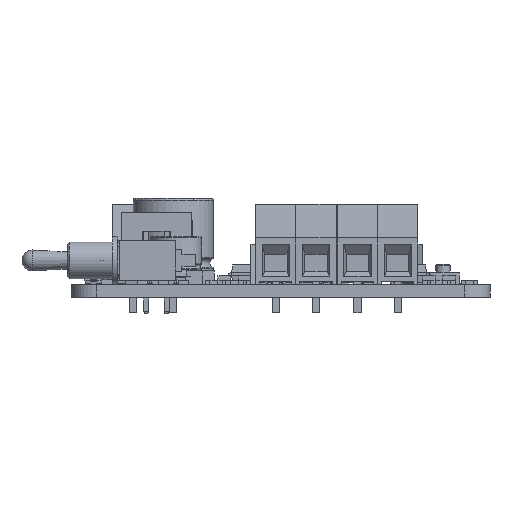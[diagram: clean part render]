
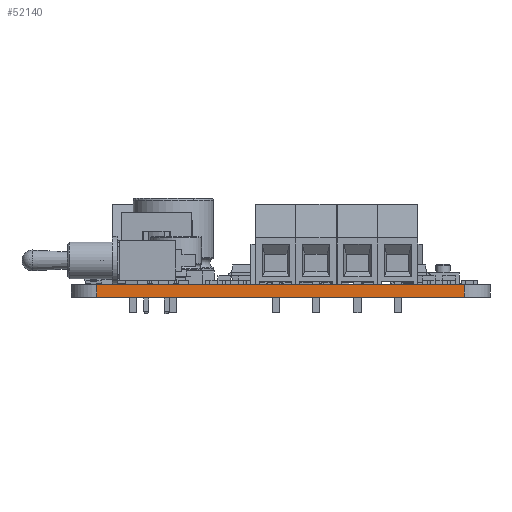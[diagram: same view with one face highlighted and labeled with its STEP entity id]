
A CAD part, left-side view. The second image highlights one B-rep face of the part: STEP entity #52140.
In plain terms, the highlighted planar face has unit normal (-1, 0, 0).
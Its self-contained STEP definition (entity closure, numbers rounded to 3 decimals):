
#3552=PLANE('',#55939);
#5839=FACE_OUTER_BOUND('',#9132,.T.);
#9132=EDGE_LOOP('',(#40899,#40900,#40901,#40902));
#12726=LINE('',#73551,#18355);
#13581=LINE('',#76250,#19210);
#14219=LINE('',#78125,#19848);
#14229=LINE('',#78144,#19858);
#18355=VECTOR('',#59024,10.);
#19210=VECTOR('',#61415,10.);
#19848=VECTOR('',#63675,10.);
#19858=VECTOR('',#63703,10.);
#24013=VERTEX_POINT('',#73549);
#24014=VERTEX_POINT('',#73550);
#25089=VERTEX_POINT('',#76248);
#25090=VERTEX_POINT('',#76249);
#28775=EDGE_CURVE('',#24013,#24014,#12726,.T.);
#30138=EDGE_CURVE('',#25089,#25090,#13581,.T.);
#31076=EDGE_CURVE('',#25089,#24013,#14219,.T.);
#31086=EDGE_CURVE('',#25090,#24014,#14229,.T.);
#40899=ORIENTED_EDGE('',*,*,#30138,.T.);
#40900=ORIENTED_EDGE('',*,*,#31086,.T.);
#40901=ORIENTED_EDGE('',*,*,#28775,.F.);
#40902=ORIENTED_EDGE('',*,*,#31076,.F.);
#52140=ADVANCED_FACE('',(#5839),#3552,.T.);
#55939=AXIS2_PLACEMENT_3D('',#78145,#63704,#63705);
#59024=DIRECTION('',(0.,-1.,0.));
#61415=DIRECTION('',(0.,-1.,0.));
#63675=DIRECTION('',(0.,0.,1.));
#63703=DIRECTION('',(0.,0.,1.));
#63704=DIRECTION('center_axis',(-1.,0.,0.));
#63705=DIRECTION('ref_axis',(0.,-1.,0.));
#73549=CARTESIAN_POINT('',(0.,48.895,1.57));
#73550=CARTESIAN_POINT('',(0.,3.175,1.57));
#73551=CARTESIAN_POINT('',(0.,48.895,1.57));
#76248=CARTESIAN_POINT('',(0.,48.895,0.));
#76249=CARTESIAN_POINT('',(0.,3.175,0.));
#76250=CARTESIAN_POINT('',(0.,48.895,0.));
#78125=CARTESIAN_POINT('',(0.,48.895,0.));
#78144=CARTESIAN_POINT('',(0.,3.175,0.));
#78145=CARTESIAN_POINT('Origin',(0.,48.895,0.));
